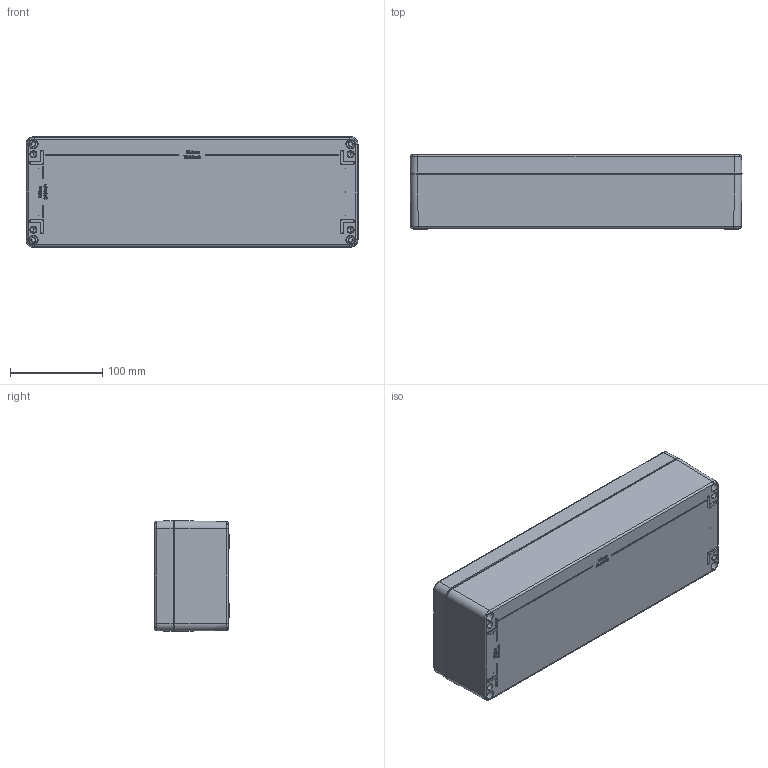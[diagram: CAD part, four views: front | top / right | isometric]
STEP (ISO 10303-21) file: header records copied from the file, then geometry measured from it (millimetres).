
FILE_DESCRIPTION (( 'STEP AP203' ), '1' );
FILE_NAME ('ALU ASSY 36012080.STEP', '2024-08-28T10:57:49', ( '' ), ( '' ), 'SwSTEP 2.0', 'SolidWorks 2018', '' );
FILE_SCHEMA (( 'CONFIG_CONTROL_DESIGN' ));
Length unit declared in the file: millimetre
Products named in the file (6): ALU ASSY 36012080; 01123608.STEP; 01153_Bearbeitung nach ZngNr._ 01-2-011580-02-0.STEP; 02153_Standard.STEP; 82009_Standard.STEP; 93134_Standard.STEP
Assembly tree (8 placements, depth 3):
  ALU ASSY 36012080
    01123608.STEP
      93134_Standard.STEP  x4
      01153_Bearbeitung nach ZngNr._ 01-2-011580-02-0.STEP
      82009_Standard.STEP
      02153_Standard.STEP
Bounding box: 360 x 81 x 120 mm (x, y, z)
Volume: 721523.5 mm3; surface area: 333379.5 mm2
Topology: 7 solids, 7 shells, 2545 faces, 5769 edges, 3090 vertices
Faces by surface type: bspline 965, cylinder 727, plane 439, sphere 186, cone 138, torus 90
Entity records: 110266 total; most frequent: CARTESIAN_POINT 64021, ORIENTED_EDGE 10652, DIRECTION 7588, EDGE_CURVE 5326, AXIS2_PLACEMENT_3D 2943, VERTEX_POINT 2940, EDGE_LOOP 2546, FACE_OUTER_BOUND 2452
